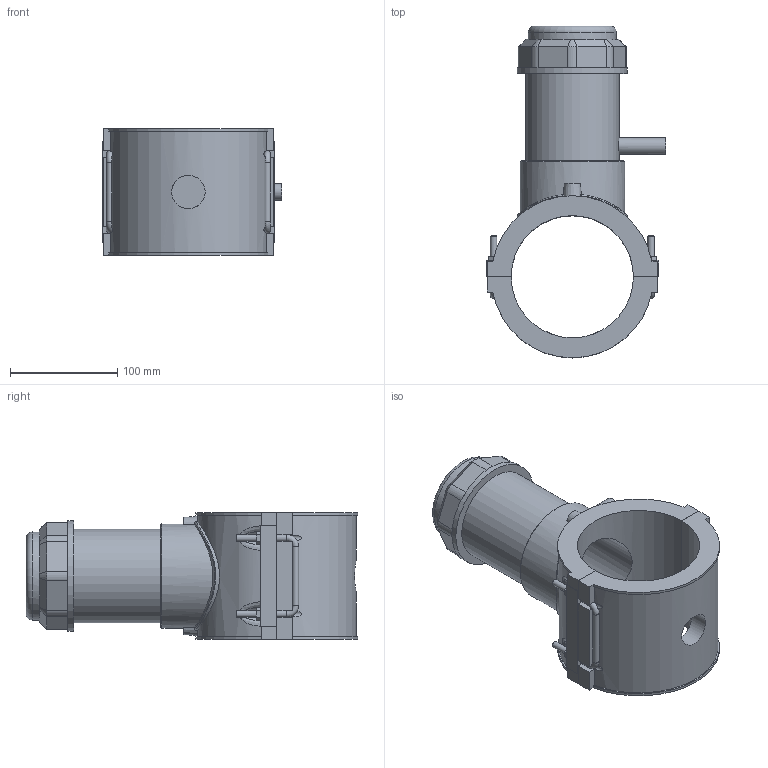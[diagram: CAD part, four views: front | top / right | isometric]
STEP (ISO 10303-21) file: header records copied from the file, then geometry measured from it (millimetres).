
FILE_DESCRIPTION(/* description */ ('PLASSON TAPPING SADDLE 4''''IPS x 1 1/2''''CTS'),/* implementation_level */ '2;1');
FILE_NAME(/* name */ 'C:\Dropbox\KIMPROJECTS-Inventor 2019\99-16-3568-Processing Inch\ASTM ElectroFusion 2021\5963B\5963BU03040005.ipt.stp',/* time_stamp */ '2021-08-30T09:56:29+03:00',/* author */ ('KIM'),/* organization */ (''),/* preprocessor_version */ 'ST-DEVELOPER v17.2',/* originating_system */ 'Autodesk Inventor 2019',/* authorisation */ '');
FILE_SCHEMA (('AUTOMOTIVE_DESIGN { 1 0 10303 214 3 1 1 }'));
Length unit declared in the file: millimetre
Products named in the file (1): 5963BU03040005
Bounding box: 167.88 x 309.74 x 118.11 mm (x, y, z)
Volume: 1396097.2 mm3; surface area: 220090.1 mm2
Topology: 1 solids, 1 shells, 216 faces, 587 edges, 384 vertices
Faces by surface type: plane 126, cylinder 60, cone 15, torus 9, bspline 6
Full cylindrical faces by diameter (mm): 6 x7, 12.64 x1, 15.8 x1, 31.36 x1, 71.883 x1, 82.152 x1, 87.287 x1, 97.555 x1, 102.69 x1
Entity records: 8586 total; most frequent: CARTESIAN_POINT 3048, ORIENTED_EDGE 1196, DIRECTION 1093, EDGE_CURVE 598, VERTEX_POINT 384, AXIS2_PLACEMENT_3D 377, LINE 339, VECTOR 339
